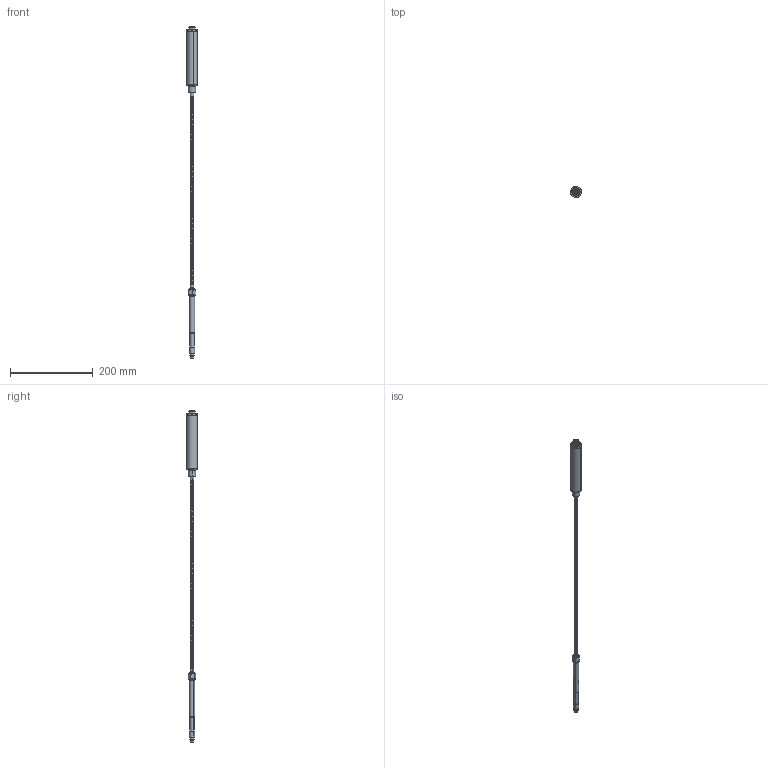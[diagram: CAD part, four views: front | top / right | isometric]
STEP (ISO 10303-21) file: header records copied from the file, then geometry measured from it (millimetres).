
FILE_DESCRIPTION (( 'STEP AP203' ), '1' );
FILE_NAME ('KE1-8-x-xxxx-1-4-D-x-P.STEP', '2021-02-04T13:11:49', ( '' ), ( '' ), 'SwSTEP 2.0', 'SolidWorks 2021', '' );
FILE_SCHEMA (( 'CONFIG_CONTROL_DESIGN' ));
Length unit declared in the file: millimetre
Products named in the file (1): KE1-8-x-xxxx-1-4-D-x-P
Bounding box: 26.5 x 26.5 x 804.42 mm (x, y, z)
Surface area: 33819.8 mm2 (no closed solid volume)
Topology: 0 solids, 19 shells, 303 faces, 840 edges, 544 vertices
Faces by surface type: cylinder 227, cone 26, plane 21, bspline 19, torus 10
Entity records: 21764 total; most frequent: CARTESIAN_POINT 14973, ORIENTED_EDGE 1576, DIRECTION 1264, EDGE_CURVE 824, VERTEX_POINT 544, AXIS2_PLACEMENT_3D 503, EDGE_LOOP 317, FACE_OUTER_BOUND 303
